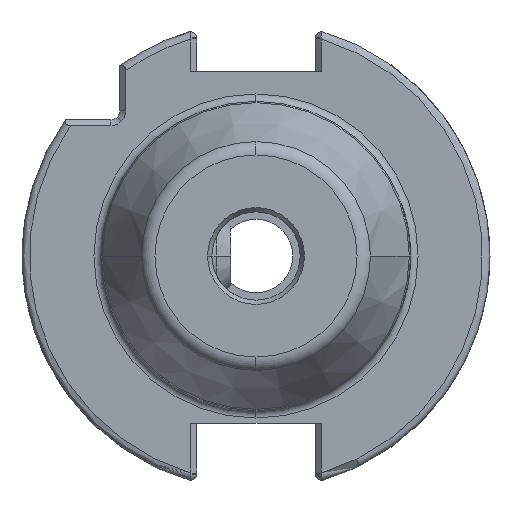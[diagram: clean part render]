
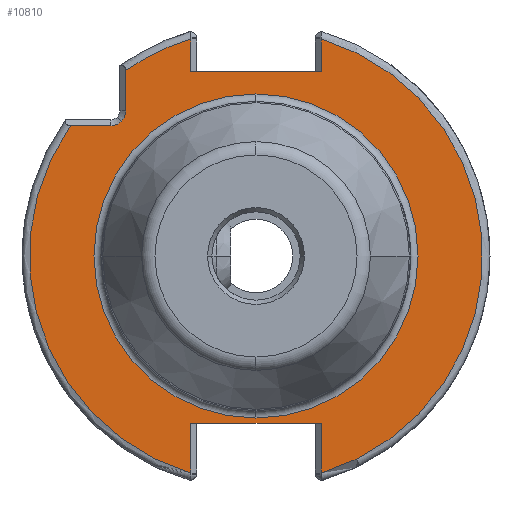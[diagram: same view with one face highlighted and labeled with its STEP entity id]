
A CAD part, front view. The second image highlights one B-rep face of the part: STEP entity #10810.
In plain terms, the highlighted planar face has unit normal (0, -1, 0).
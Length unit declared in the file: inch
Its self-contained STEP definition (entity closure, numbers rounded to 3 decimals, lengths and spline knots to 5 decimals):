
#181 = DIRECTION ( 'NONE',  ( -1., 0., 0. ) ) ;
#230 = VERTEX_POINT ( 'NONE', #8503 ) ;
#436 = VERTEX_POINT ( 'NONE', #892 ) ;
#448 = ORIENTED_EDGE ( 'NONE', *, *, #7354, .F. ) ;
#510 = EDGE_CURVE ( 'NONE', #6168, #5156, #4699, .T. ) ;
#515 = PLANE ( 'NONE',  #7117 ) ;
#638 = DIRECTION ( 'NONE',  ( 0.707, 0., -0.707 ) ) ;
#753 = EDGE_CURVE ( 'NONE', #436, #4778, #8523, .T. ) ;
#767 = VECTOR ( 'NONE', #3260, 39.37008 ) ;
#892 = CARTESIAN_POINT ( 'NONE',  ( -0.99117, -0.75197, 0.69685 ) ) ;
#945 = EDGE_LOOP ( 'NONE', ( #7503, #3430 ) ) ;
#1111 = FACE_BOUND ( 'NONE', #945, .T. ) ;
#1151 = EDGE_CURVE ( 'NONE', #10153, #3215, #10287, .T. ) ;
#1185 = DIRECTION ( 'NONE',  ( 0., 1., 0. ) ) ;
#1216 = EDGE_CURVE ( 'NONE', #230, #6195, #5769, .T. ) ;
#1305 = DIRECTION ( 'NONE',  ( 0., 0., -1. ) ) ;
#1334 = CARTESIAN_POINT ( 'NONE',  ( 0., -0.75197, 0. ) ) ;
#1441 = ORIENTED_EDGE ( 'NONE', *, *, #753, .F. ) ;
#1858 = CARTESIAN_POINT ( 'NONE',  ( 0.34843, -0.75197, 1.16043 ) ) ;
#1882 = EDGE_CURVE ( 'NONE', #10153, #10189, #8334, .T. ) ;
#1999 = FACE_OUTER_BOUND ( 'NONE', #2079, .T. ) ;
#2042 = CARTESIAN_POINT ( 'NONE',  ( -0.34843, -0.75197, -0.44685 ) ) ;
#2079 = EDGE_LOOP ( 'NONE', ( #448, #4758, #10219, #9732, #3976, #2548, #4395, #3120, #10628, #2516, #1441, #8096, #7816 ) ) ;
#2145 = CARTESIAN_POINT ( 'NONE',  ( 0.34843, -0.75197, 0.98425 ) ) ;
#2405 = DIRECTION ( 'NONE',  ( 0., -1., 0. ) ) ;
#2460 = EDGE_CURVE ( 'NONE', #3633, #436, #4394, .T. ) ;
#2516 = ORIENTED_EDGE ( 'NONE', *, *, #3419, .F. ) ;
#2548 = ORIENTED_EDGE ( 'NONE', *, *, #10355, .F. ) ;
#2886 = CARTESIAN_POINT ( 'NONE',  ( -0.69685, -0.75197, 0.99117 ) ) ;
#2916 = LINE ( 'NONE', #8531, #10754 ) ;
#2949 = DIRECTION ( 'NONE',  ( 0., 0., 1. ) ) ;
#2983 = CARTESIAN_POINT ( 'NONE',  ( -1.25098, -0.75197, 0. ) ) ;
#3016 = AXIS2_PLACEMENT_3D ( 'NONE', #6315, #9672, #8836 ) ;
#3027 = AXIS2_PLACEMENT_3D ( 'NONE', #9955, #6401, #10468 ) ;
#3039 = AXIS2_PLACEMENT_3D ( 'NONE', #9600, #6294, #9704 ) ;
#3120 = ORIENTED_EDGE ( 'NONE', *, *, #510, .F. ) ;
#3155 = EDGE_CURVE ( 'NONE', #4187, #6168, #7903, .T. ) ;
#3215 = VERTEX_POINT ( 'NONE', #1858 ) ;
#3260 = DIRECTION ( 'NONE',  ( 0., 0., 1. ) ) ;
#3308 = CARTESIAN_POINT ( 'NONE',  ( 0.34843, -0.75197, -0.44685 ) ) ;
#3419 = EDGE_CURVE ( 'NONE', #4778, #4187, #5834, .T. ) ;
#3430 = ORIENTED_EDGE ( 'NONE', *, *, #8190, .F. ) ;
#3633 = VERTEX_POINT ( 'NONE', #9621 ) ;
#3636 = VECTOR ( 'NONE', #7648, 39.37008 ) ;
#3769 = DIRECTION ( 'NONE',  ( 1., 0., 0. ) ) ;
#3839 = VECTOR ( 'NONE', #10045, 39.37008 ) ;
#3976 = ORIENTED_EDGE ( 'NONE', *, *, #1882, .T. ) ;
#4085 = CARTESIAN_POINT ( 'NONE',  ( -0.77559, -0.75197, 0.69685 ) ) ;
#4187 = VERTEX_POINT ( 'NONE', #6433 ) ;
#4377 = CIRCLE ( 'NONE', #5451, 0.86614 ) ;
#4393 = CARTESIAN_POINT ( 'NONE',  ( 0.34843, -0.75197, 0.49213 ) ) ;
#4394 = CIRCLE ( 'NONE', #9135, 1.21161 ) ;
#4395 = ORIENTED_EDGE ( 'NONE', *, *, #4482, .F. ) ;
#4482 = EDGE_CURVE ( 'NONE', #5156, #8059, #5607, .T. ) ;
#4521 = CARTESIAN_POINT ( 'NONE',  ( 0., -0.75197, 0. ) ) ;
#4601 = VECTOR ( 'NONE', #181, 39.37008 ) ;
#4684 = CARTESIAN_POINT ( 'NONE',  ( 0., -0.75197, -0.86614 ) ) ;
#4699 = LINE ( 'NONE', #9422, #3839 ) ;
#4758 = ORIENTED_EDGE ( 'NONE', *, *, #1216, .F. ) ;
#4778 = VERTEX_POINT ( 'NONE', #4085 ) ;
#5156 = VERTEX_POINT ( 'NONE', #2886 ) ;
#5250 = DIRECTION ( 'NONE',  ( 0., 0., -1. ) ) ;
#5376 = AXIS2_PLACEMENT_3D ( 'NONE', #1334, #10446, #3769 ) ;
#5451 = AXIS2_PLACEMENT_3D ( 'NONE', #4521, #10292, #6999 ) ;
#5452 = VERTEX_POINT ( 'NONE', #4684 ) ;
#5477 = AXIS2_PLACEMENT_3D ( 'NONE', #9746, #2405, #638 ) ;
#5607 = CIRCLE ( 'NONE', #3016, 1.21161 ) ;
#5769 = LINE ( 'NONE', #3308, #767 ) ;
#5834 = CIRCLE ( 'NONE', #5477, 0.07874 ) ;
#5992 = VERTEX_POINT ( 'NONE', #10664 ) ;
#6078 = CARTESIAN_POINT ( 'NONE',  ( -0.69685, -0.75197, 0.77559 ) ) ;
#6107 = CARTESIAN_POINT ( 'NONE',  ( -0.78396, -0.75197, 0.98425 ) ) ;
#6135 = DIRECTION ( 'NONE',  ( -1., 0., 0. ) ) ;
#6168 = VERTEX_POINT ( 'NONE', #6078 ) ;
#6195 = VERTEX_POINT ( 'NONE', #10432 ) ;
#6213 = VECTOR ( 'NONE', #5250, 39.37008 ) ;
#6294 = DIRECTION ( 'NONE',  ( 0., -1., 0. ) ) ;
#6315 = CARTESIAN_POINT ( 'NONE',  ( 0., -0.75197, 0. ) ) ;
#6401 = DIRECTION ( 'NONE',  ( 0., -1., 0. ) ) ;
#6428 = CARTESIAN_POINT ( 'NONE',  ( 0., -0.75197, 0.86614 ) ) ;
#6433 = CARTESIAN_POINT ( 'NONE',  ( -0.71991, -0.75197, 0.71991 ) ) ;
#6470 = EDGE_CURVE ( 'NONE', #9106, #5452, #7197, .T. ) ;
#6999 = DIRECTION ( 'NONE',  ( -1., 0., 0. ) ) ;
#7052 = LINE ( 'NONE', #8907, #7726 ) ;
#7117 = AXIS2_PLACEMENT_3D ( 'NONE', #2983, #7889, #7947 ) ;
#7197 = CIRCLE ( 'NONE', #3027, 0.86614 ) ;
#7354 = EDGE_CURVE ( 'NONE', #6195, #5992, #2916, .T. ) ;
#7503 = ORIENTED_EDGE ( 'NONE', *, *, #6470, .F. ) ;
#7648 = DIRECTION ( 'NONE',  ( 1., 0., 0. ) ) ;
#7726 = VECTOR ( 'NONE', #1305, 39.37008 ) ;
#7816 = ORIENTED_EDGE ( 'NONE', *, *, #10000, .F. ) ;
#7855 = DIRECTION ( 'NONE',  ( 1., 0., 0. ) ) ;
#7889 = DIRECTION ( 'NONE',  ( 0., -1., 0. ) ) ;
#7903 = CIRCLE ( 'NONE', #3039, 0.07874 ) ;
#7947 = DIRECTION ( 'NONE',  ( 0., 0., -1. ) ) ;
#8059 = VERTEX_POINT ( 'NONE', #8299 ) ;
#8096 = ORIENTED_EDGE ( 'NONE', *, *, #2460, .F. ) ;
#8190 = EDGE_CURVE ( 'NONE', #5452, #9106, #4377, .T. ) ;
#8299 = CARTESIAN_POINT ( 'NONE',  ( -0.34843, -0.75197, 1.16043 ) ) ;
#8334 = LINE ( 'NONE', #6107, #4601 ) ;
#8352 = CARTESIAN_POINT ( 'NONE',  ( -1.18652, -0.75197, 0.69685 ) ) ;
#8503 = CARTESIAN_POINT ( 'NONE',  ( 0.34843, -0.75197, -1.16043 ) ) ;
#8523 = LINE ( 'NONE', #8352, #3636 ) ;
#8531 = CARTESIAN_POINT ( 'NONE',  ( 0., -0.75197, -0.8937 ) ) ;
#8836 = DIRECTION ( 'NONE',  ( 1., 0., 0. ) ) ;
#8907 = CARTESIAN_POINT ( 'NONE',  ( -0.34843, -0.75197, 0.68898 ) ) ;
#9106 = VERTEX_POINT ( 'NONE', #6428 ) ;
#9135 = AXIS2_PLACEMENT_3D ( 'NONE', #9530, #1185, #7855 ) ;
#9422 = CARTESIAN_POINT ( 'NONE',  ( -0.69685, -0.75197, 0.36417 ) ) ;
#9530 = CARTESIAN_POINT ( 'NONE',  ( 0., -0.75197, 0. ) ) ;
#9586 = CIRCLE ( 'NONE', #5376, 1.21161 ) ;
#9600 = CARTESIAN_POINT ( 'NONE',  ( -0.77559, -0.75197, 0.77559 ) ) ;
#9621 = CARTESIAN_POINT ( 'NONE',  ( -0.34843, -0.75197, -1.16043 ) ) ;
#9672 = DIRECTION ( 'NONE',  ( 0., 1., 0. ) ) ;
#9704 = DIRECTION ( 'NONE',  ( 0.707, 0., -0.707 ) ) ;
#9732 = ORIENTED_EDGE ( 'NONE', *, *, #1151, .F. ) ;
#9746 = CARTESIAN_POINT ( 'NONE',  ( -0.77559, -0.75197, 0.77559 ) ) ;
#9869 = CARTESIAN_POINT ( 'NONE',  ( -0.34843, -0.75197, 0.98425 ) ) ;
#9955 = CARTESIAN_POINT ( 'NONE',  ( 0., -0.75197, 0. ) ) ;
#10000 = EDGE_CURVE ( 'NONE', #5992, #3633, #10145, .T. ) ;
#10045 = DIRECTION ( 'NONE',  ( 0., 0., 1. ) ) ;
#10145 = LINE ( 'NONE', #2042, #6213 ) ;
#10153 = VERTEX_POINT ( 'NONE', #2145 ) ;
#10189 = VERTEX_POINT ( 'NONE', #9869 ) ;
#10219 = ORIENTED_EDGE ( 'NONE', *, *, #10737, .F. ) ;
#10287 = LINE ( 'NONE', #4393, #10583 ) ;
#10292 = DIRECTION ( 'NONE',  ( 0., -1., 0. ) ) ;
#10355 = EDGE_CURVE ( 'NONE', #8059, #10189, #7052, .T. ) ;
#10432 = CARTESIAN_POINT ( 'NONE',  ( 0.34843, -0.75197, -0.8937 ) ) ;
#10446 = DIRECTION ( 'NONE',  ( 0., 1., 0. ) ) ;
#10468 = DIRECTION ( 'NONE',  ( -1., 0., 0. ) ) ;
#10583 = VECTOR ( 'NONE', #2949, 39.37008 ) ;
#10628 = ORIENTED_EDGE ( 'NONE', *, *, #3155, .F. ) ;
#10664 = CARTESIAN_POINT ( 'NONE',  ( -0.34843, -0.75197, -0.8937 ) ) ;
#10737 = EDGE_CURVE ( 'NONE', #3215, #230, #9586, .T. ) ;
#10754 = VECTOR ( 'NONE', #6135, 39.37008 ) ;
#10810 = ADVANCED_FACE ( 'NONE', ( #1111, #1999 ), #515, .T. ) ;
